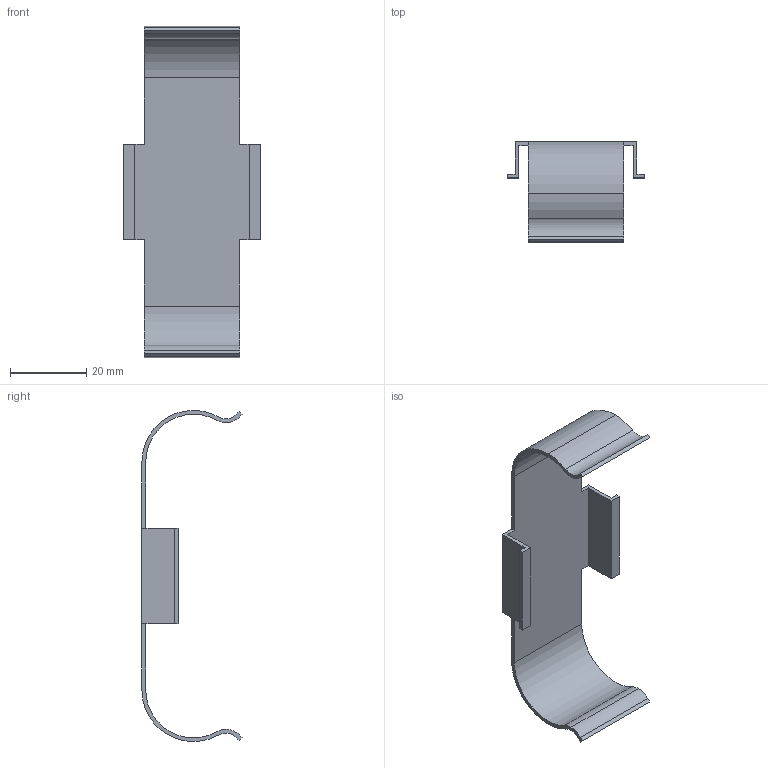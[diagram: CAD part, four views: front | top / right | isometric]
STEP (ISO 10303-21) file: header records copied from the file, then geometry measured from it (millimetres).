
FILE_DESCRIPTION (( 'STEP AP214' ), '1' );
FILE_NAME ('JB-56030.step', '2024-01-17T00:58:58', ( 'catia' ), ( 'HP Inc.' ), 'SwSTEP 2.0', 'SolidWorks 2021', '' );
FILE_SCHEMA (( 'AUTOMOTIVE_DESIGN' ));
Length unit declared in the file: millimetre
Products named in the file (1): JB-56030
Bounding box: 36 x 26.3 x 87 mm (x, y, z)
Volume: 3895.3 mm3; surface area: 8152.3 mm2
Topology: 1 solids, 1 shells, 38 faces, 108 edges, 72 vertices
Faces by surface type: plane 26, cylinder 12
Entity records: 1270 total; most frequent: CARTESIAN_POINT 219, ORIENTED_EDGE 216, DIRECTION 210, EDGE_CURVE 108, VECTOR 84, LINE 84, VERTEX_POINT 72, AXIS2_PLACEMENT_3D 63
